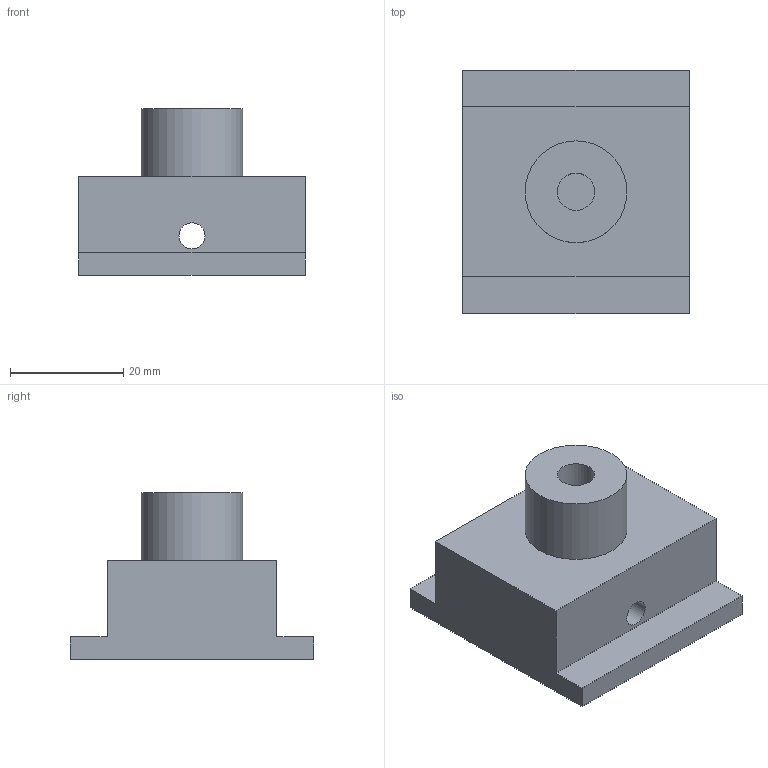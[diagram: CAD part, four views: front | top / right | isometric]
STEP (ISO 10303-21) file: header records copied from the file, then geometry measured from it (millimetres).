
FILE_DESCRIPTION(('Open CASCADE Model'),'2;1');
FILE_NAME('Open CASCADE Shape Model','2026-09-20T04:25:33',('Author'),( 'Open CASCADE'),'Open CASCADE STEP processor 7.9','Open CASCADE 7.9' ,'Unknown');
FILE_SCHEMA(('AUTOMOTIVE_DESIGN { 1 0 10303 214 1 1 1 1 }'));
Length unit declared in the file: millimetre
Products named in the file (1): Open CASCADE STEP translator 7.9 2
Bounding box: 40 x 43 x 29.5 mm (x, y, z)
Volume: 25190.3 mm3; surface area: 7342.4 mm2
Topology: 1 solids, 1 shells, 15 faces, 33 edges, 22 vertices
Faces by surface type: plane 12, cylinder 3
Full cylindrical faces by diameter (mm): 4.6 x1, 6.6 x1, 18 x1
Entity records: 856 total; most frequent: CARTESIAN_POINT 137, DIRECTION 137, LINE 87, VECTOR 87, ORIENTED_EDGE 66, PCURVE 66, DEFINITIONAL_REPRESENTATION 66, EDGE_CURVE 33
